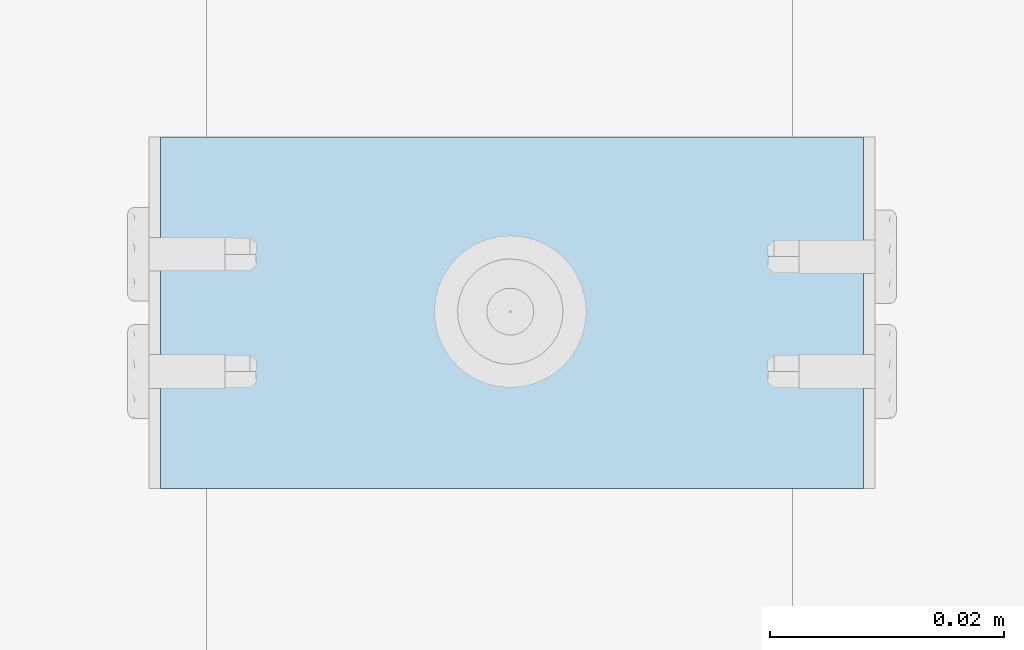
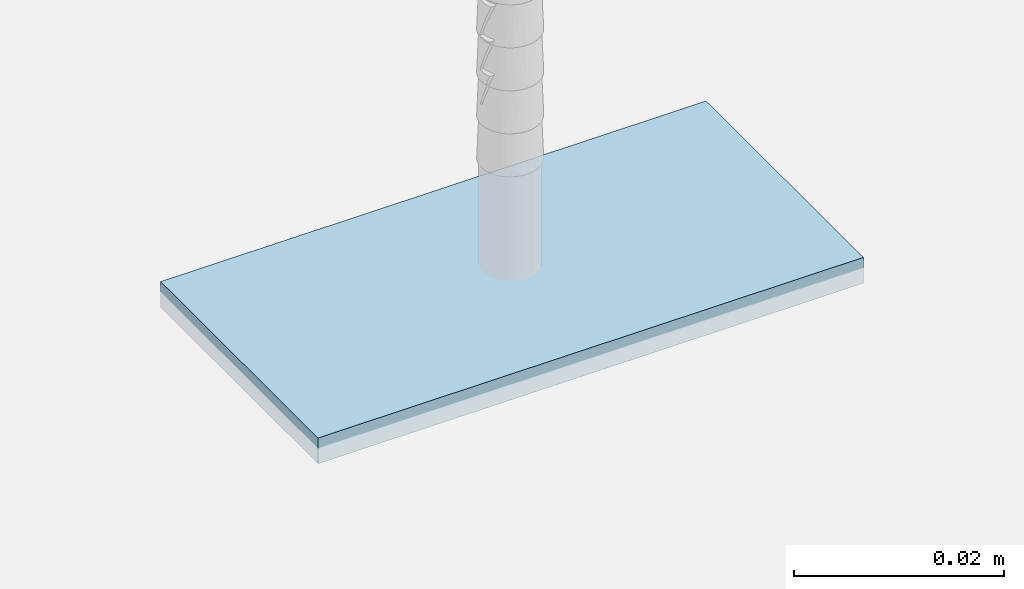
# One storey, part 8 of 62: 1 slab.
"""IFC2X3 building model written with IfcOpenShell, lengths in millimetres."""

from ifc_helpers import new_model, entity, si_unit, converted_unit, direction, frame, origin, origin_with_axes, place, context, project, spatial, faceted_brep, element, save


model = new_model("IFC2X3")

# Units and contexts
model_context = context("Model", 3, precision=1e-05, world=origin(), true_north=direction((0.0, 1.0, 0.0)))
ifc_project = project(units=[si_unit("LENGTHUNIT", "METRE", prefix="MILLI"), si_unit("AREAUNIT", "SQUARE_METRE"), si_unit("VOLUMEUNIT", "CUBIC_METRE"), converted_unit("PLANEANGLEUNIT", "DEGREE", entity("IfcPlaneAngleMeasure", 0.01745), si_unit("PLANEANGLEUNIT", "RADIAN"), dimensions=[0, 0, 0, 0, 0, 0, 0]), si_unit("SOLIDANGLEUNIT", "STERADIAN"), si_unit("MASSUNIT", "GRAM"), si_unit("TIMEUNIT", "SECOND"), si_unit("THERMODYNAMICTEMPERATUREUNIT", "DEGREE_CELSIUS"), si_unit("LUMINOUSINTENSITYUNIT", "LUMEN")], contexts=[model_context])

# Site, building, storey
site_placement = place(None, origin_with_axes())
site = spatial("IfcSite", under=ifc_project, at=site_placement, Name="Default Site", CompositionType="ELEMENT")
building_placement = place(site_placement, origin_with_axes())
building = spatial("IfcBuilding", under=site, at=building_placement, Name="Default Building", CompositionType="ELEMENT")
storey_placement = place(building_placement, origin_with_axes())
storey = spatial("IfcBuildingStorey", under=building, at=storey_placement, Name="Default Building Storey", CompositionType="ELEMENT", Elevation=0.0)

# Slab
slab_placement = place(storey_placement, frame((2333.040618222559, 1827.603855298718, 1388.424461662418), z_axis=(0.0, -1.0, -6.86006806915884e-13), x_axis=(1.0, 0.0, 0.0)))
element("IfcSlab", 1, at=slab_placement, inside=storey, Name="Taśma uszczelniająca piankowa RIGIPS szer.30mm", context=model_context, shape_type="Brep", body=[
    faceted_brep([(59.99999999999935, 0.0, 4.511946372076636e-12), (0.0, 0.0, 0.0), (1.082867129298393e-12, -2.237925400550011e-11, -30.00000000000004), (60.00000000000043, -2.237925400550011e-11, -29.99999999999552), (0.0, 3.00000000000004, 0.0), (1.082867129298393e-12, 2.999999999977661, -30.00000000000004), (60.00000000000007, 3.00000000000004, 0.0), (60.00000000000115, 2.999999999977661, -30.00000000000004)], [[[0, 1, 2, 3]], [[1, 4, 5, 2]], [[4, 6, 7, 5]], [[6, 0, 3, 7]], [[7, 3, 2, 5]], [[0, 6, 4, 1]]]),
])

save(model, "model.ifc")
